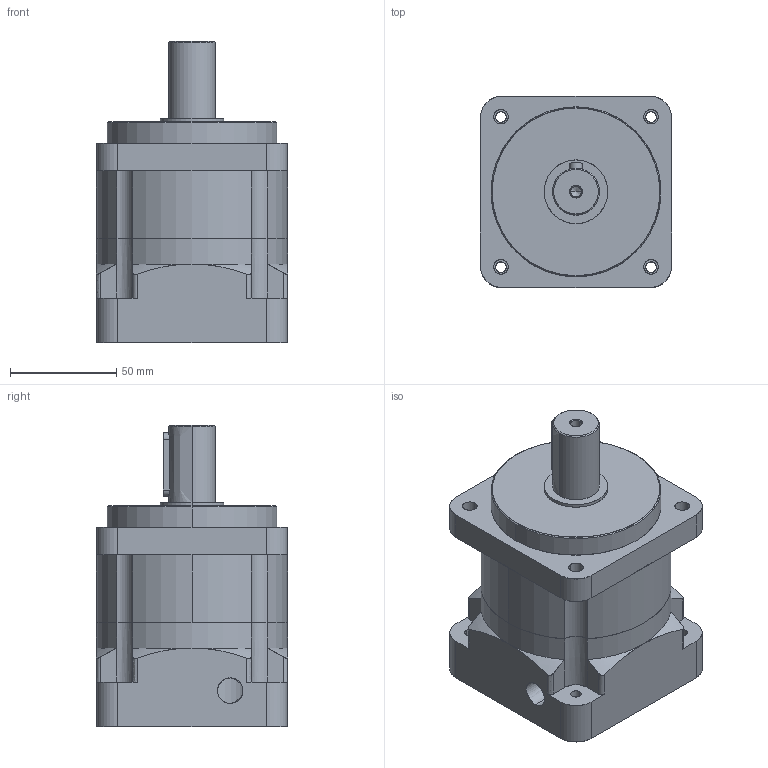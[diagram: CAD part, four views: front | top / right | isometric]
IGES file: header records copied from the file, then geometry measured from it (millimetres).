
Start section: SolidWorks IGES file using analytic representation for surfaces
Global section: file name: C:\Users\render\Documents\CAD Files\S-Gearboxes\SL-090-005\SL-090-005.IGS; native system: SolidWorks 2009; preprocessor: SolidWorks 2009; author: render; date: 100519.115722; units: millimetre
Bounding box: 90 x 90 x 142 mm (x, y, z)
Surface area: 107173.4 mm2 (no closed solid volume)
Topology: 0 solids, 0 shells, 134 faces, 2926 edges, 2924 vertices
Faces by surface type: revolution 92, bspline 42
